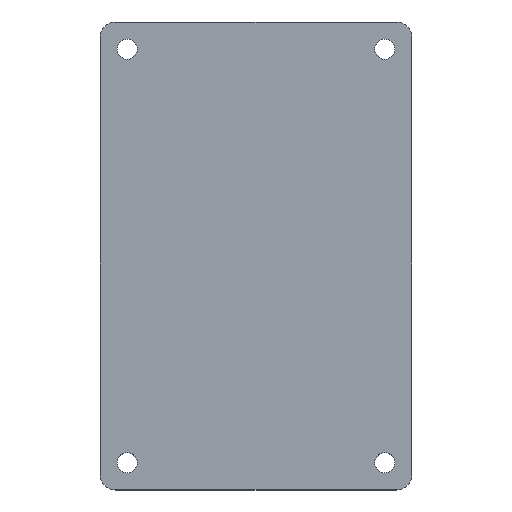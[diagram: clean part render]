
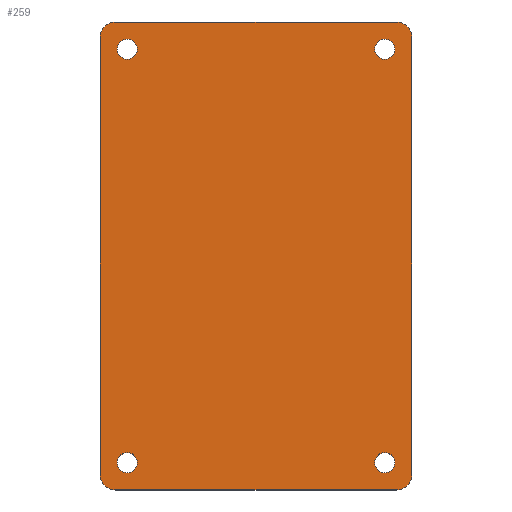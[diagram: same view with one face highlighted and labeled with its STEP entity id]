
A CAD part, top view. The second image highlights one B-rep face of the part: STEP entity #259.
In plain terms, the highlighted planar face has unit normal (0, 0, 1).
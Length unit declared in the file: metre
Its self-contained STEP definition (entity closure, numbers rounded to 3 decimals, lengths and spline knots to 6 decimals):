
#28=CIRCLE('',#287,0.003264);
#29=CIRCLE('',#289,0.003264);
#30=CIRCLE('',#291,0.003264);
#31=CIRCLE('',#293,0.003264);
#32=CIRCLE('',#295,0.00508);
#33=CIRCLE('',#297,0.00508);
#34=CIRCLE('',#299,0.00508);
#35=CIRCLE('',#301,0.00508);
#88=ORIENTED_EDGE('',*,*,#124,.T.);
#89=ORIENTED_EDGE('',*,*,#125,.T.);
#90=ORIENTED_EDGE('',*,*,#126,.T.);
#91=ORIENTED_EDGE('',*,*,#127,.T.);
#92=ORIENTED_EDGE('',*,*,#128,.T.);
#93=ORIENTED_EDGE('',*,*,#104,.T.);
#94=ORIENTED_EDGE('',*,*,#130,.T.);
#95=ORIENTED_EDGE('',*,*,#108,.T.);
#96=ORIENTED_EDGE('',*,*,#131,.T.);
#97=ORIENTED_EDGE('',*,*,#112,.T.);
#98=ORIENTED_EDGE('',*,*,#129,.T.);
#99=ORIENTED_EDGE('',*,*,#100,.T.);
#100=EDGE_CURVE('',#132,#133,#156,.T.);
#104=EDGE_CURVE('',#136,#137,#160,.F.);
#108=EDGE_CURVE('',#140,#141,#164,.F.);
#112=EDGE_CURVE('',#144,#145,#168,.T.);
#124=EDGE_CURVE('',#152,#152,#28,.T.);
#125=EDGE_CURVE('',#153,#153,#29,.T.);
#126=EDGE_CURVE('',#154,#154,#30,.T.);
#127=EDGE_CURVE('',#155,#155,#31,.T.);
#128=EDGE_CURVE('',#133,#136,#32,.F.);
#129=EDGE_CURVE('',#145,#132,#33,.F.);
#130=EDGE_CURVE('',#137,#140,#34,.F.);
#131=EDGE_CURVE('',#141,#144,#35,.F.);
#132=VERTEX_POINT('',#384);
#133=VERTEX_POINT('',#385);
#136=VERTEX_POINT('',#393);
#137=VERTEX_POINT('',#394);
#140=VERTEX_POINT('',#402);
#141=VERTEX_POINT('',#403);
#144=VERTEX_POINT('',#411);
#145=VERTEX_POINT('',#412);
#152=VERTEX_POINT('',#433);
#153=VERTEX_POINT('',#436);
#154=VERTEX_POINT('',#439);
#155=VERTEX_POINT('',#442);
#156=LINE('',#383,#172);
#160=LINE('',#392,#176);
#164=LINE('',#401,#180);
#168=LINE('',#410,#184);
#172=VECTOR('',#307,1.);
#176=VECTOR('',#313,1.);
#180=VECTOR('',#319,1.);
#184=VECTOR('',#325,1.);
#209=EDGE_LOOP('',(#88));
#210=EDGE_LOOP('',(#89));
#211=EDGE_LOOP('',(#90));
#212=EDGE_LOOP('',(#91));
#213=EDGE_LOOP('',(#92,#93,#94,#95,#96,#97,#98,#99));
#235=FACE_BOUND('',#209,.T.);
#236=FACE_BOUND('',#210,.T.);
#237=FACE_BOUND('',#211,.T.);
#238=FACE_BOUND('',#212,.T.);
#239=FACE_BOUND('',#213,.T.);
#245=PLANE('',#302);
#259=ADVANCED_FACE('',(#235,#236,#237,#238,#239),#245,.T.);
#287=AXIS2_PLACEMENT_3D('',#432,#349,#350);
#289=AXIS2_PLACEMENT_3D('',#435,#353,#354);
#291=AXIS2_PLACEMENT_3D('',#438,#357,#358);
#293=AXIS2_PLACEMENT_3D('',#441,#361,#362);
#295=AXIS2_PLACEMENT_3D('',#444,#365,#366);
#297=AXIS2_PLACEMENT_3D('',#446,#369,#370);
#299=AXIS2_PLACEMENT_3D('',#448,#373,#374);
#301=AXIS2_PLACEMENT_3D('',#450,#377,#378);
#302=AXIS2_PLACEMENT_3D('',#451,#379,#380);
#307=DIRECTION('',(-1.,0.,0.));
#313=DIRECTION('',(0.,1.,0.));
#319=DIRECTION('',(-1.,0.,0.));
#325=DIRECTION('',(0.,1.,0.));
#349=DIRECTION('',(0.,0.,-1.));
#350=DIRECTION('',(-1.,0.,0.));
#353=DIRECTION('',(0.,0.,-1.));
#354=DIRECTION('',(-1.,0.,0.));
#357=DIRECTION('',(0.,0.,-1.));
#358=DIRECTION('',(-1.,0.,0.));
#361=DIRECTION('',(0.,0.,-1.));
#362=DIRECTION('',(-1.,0.,0.));
#365=DIRECTION('',(0.,0.,-1.));
#366=DIRECTION('',(-1.,0.,0.));
#369=DIRECTION('',(0.,0.,-1.));
#370=DIRECTION('',(-1.,0.,0.));
#373=DIRECTION('',(0.,0.,-1.));
#374=DIRECTION('',(-1.,0.,0.));
#377=DIRECTION('',(0.,0.,-1.));
#378=DIRECTION('',(-1.,0.,0.));
#379=DIRECTION('',(0.,0.,1.));
#380=DIRECTION('',(1.,0.,0.));
#383=CARTESIAN_POINT('',(0.,0.0762,-0.03937));
#384=CARTESIAN_POINT('',(0.04572,0.0762,-0.03937));
#385=CARTESIAN_POINT('',(-0.04572,0.0762,-0.03937));
#392=CARTESIAN_POINT('',(-0.0508,0.,-0.03937));
#393=CARTESIAN_POINT('',(-0.0508,0.07112,-0.03937));
#394=CARTESIAN_POINT('',(-0.0508,-0.07112,-0.03937));
#401=CARTESIAN_POINT('',(0.,-0.0762,-0.03937));
#402=CARTESIAN_POINT('',(-0.04572,-0.0762,-0.03937));
#403=CARTESIAN_POINT('',(0.04572,-0.0762,-0.03937));
#410=CARTESIAN_POINT('',(0.0508,0.,-0.03937));
#411=CARTESIAN_POINT('',(0.0508,-0.07112,-0.03937));
#412=CARTESIAN_POINT('',(0.0508,0.07112,-0.03937));
#432=CARTESIAN_POINT('',(-0.04191,0.06731,-0.03937));
#433=CARTESIAN_POINT('',(-0.045174,0.06731,-0.03937));
#435=CARTESIAN_POINT('',(0.04191,0.06731,-0.03937));
#436=CARTESIAN_POINT('',(0.038646,0.06731,-0.03937));
#438=CARTESIAN_POINT('',(0.04191,-0.06731,-0.03937));
#439=CARTESIAN_POINT('',(0.038646,-0.06731,-0.03937));
#441=CARTESIAN_POINT('',(-0.04191,-0.06731,-0.03937));
#442=CARTESIAN_POINT('',(-0.045174,-0.06731,-0.03937));
#444=CARTESIAN_POINT('',(-0.04572,0.07112,-0.03937));
#446=CARTESIAN_POINT('',(0.04572,0.07112,-0.03937));
#448=CARTESIAN_POINT('',(-0.04572,-0.07112,-0.03937));
#450=CARTESIAN_POINT('',(0.04572,-0.07112,-0.03937));
#451=CARTESIAN_POINT('',(0.13335,0.,-0.03937));
